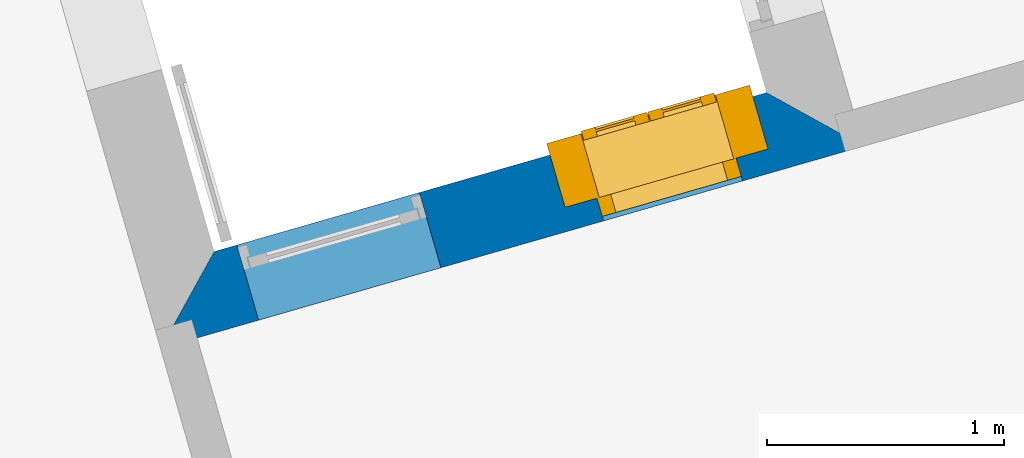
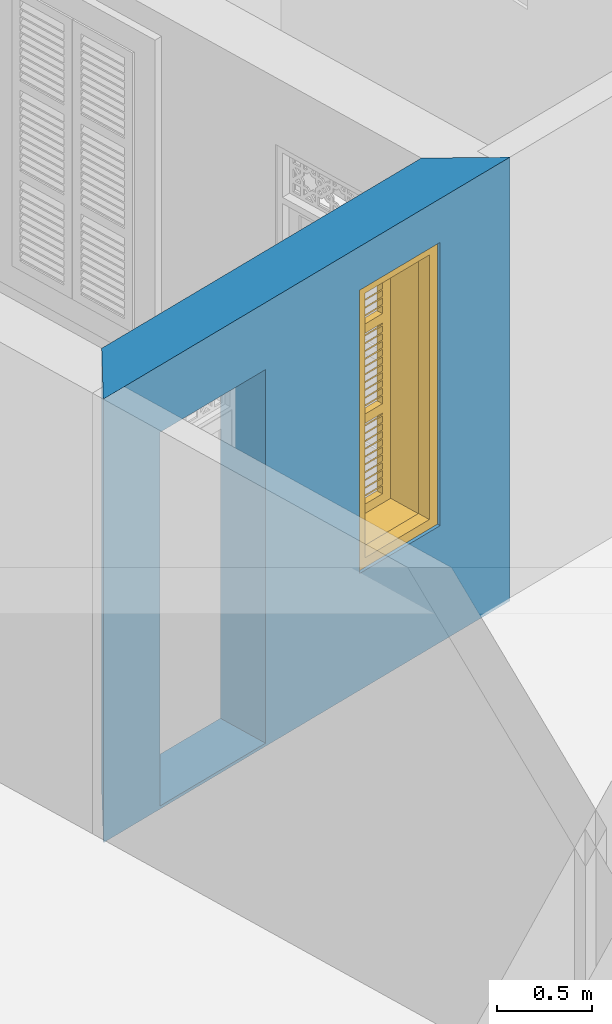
# One storey, part 4 of 16: 1 wall, 1 window, 2 openings.
"""IFC4 building model written with IfcOpenShell, lengths in metres."""

from ifc_helpers import new_model, si_unit, frame, origin, origin_with_axes, place, context, subcontext, project, spatial, polyline, outline, extrude, faceted_brep, source, transform, mapped, material, layer, layer_set, layer_usage, type_object, type_shapes, element, fill, save


model = new_model("IFC4")

# Units and contexts
model_context = context("Model", 3, world=origin_with_axes())
body_context = subcontext(model_context, "Body", "Model", "MODEL_VIEW")
ifc_project = project(units=[si_unit("PLANEANGLEUNIT", "RADIAN"), si_unit("MASSUNIT", "GRAM", prefix="KILO"), si_unit("FORCEUNIT", "NEWTON", prefix="KILO"), si_unit("LENGTHUNIT", "METRE"), si_unit("AREAUNIT", "SQUARE_METRE"), si_unit("VOLUMEUNIT", "CUBIC_METRE")], contexts=[model_context, model_context])

# Site, building, storey
site_placement = place(None, origin_with_axes())
site = spatial("IfcSite", under=ifc_project, at=site_placement, Name="Site plot-9", CompositionType="ELEMENT")
building_placement = place(None, origin_with_axes())
building = spatial("IfcBuilding", under=site, at=building_placement, Name="Building plot-9", CompositionType="ELEMENT")
storey_placement = place(None, origin_with_axes())
storey = spatial("IfcBuildingStorey", under=building, at=storey_placement, Name="plot-9 0", CompositionType="ELEMENT", Elevation=0.0)

# Wall, openings, window
ifc_material = material(Name="Masonry")
ifc_layer = layer(ifc_material, 0.33, ventilated=False)
ifc_layer_set = layer_set([ifc_layer], Name="exterior_0.08_0.25")
ifc_layer_usage = layer_usage(ifc_layer_set, "AXIS2", "POSITIVE", -0.25)
wall_type = type_object("IfcWallType", Name="exterior_0.08_0.25", PredefinedType="SOLIDWALL", material=ifc_layer_set)
wall_placement = place(storey_placement, frame((-14.2817740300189, -1.32481461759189, 0.0), z_axis=(0.0, 0.0, 1.0), x_axis=(-0.961007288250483, -0.276523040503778, 0.0)))
wall = element("IfcWall", 1, at=wall_placement, inside=storey, type_object=wall_type, material=ifc_layer_usage, Name="exterior", context=body_context, shape_type="SweptSolid", body=[
    extrude(outline(polyline([(-0.0800000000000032, 0.079999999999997), (0.250000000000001, -0.250000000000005), (2.67339041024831, -0.25), (3.00339041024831, 0.08), (-0.0800000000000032, 0.079999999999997)])), origin_with_axes(), (0.0, 0.0, 1.0), 2.85),
])
opening_1_placement = place(wall_placement, frame((0.450000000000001, 0.0, 0.75)))
opening_1 = element("IfcOpeningElement", 2, at=opening_1_placement, cuts=wall, Name="My Opening", ObjectType="Opening", context=body_context, shape_type="SweptSolid", body=[
    extrude(outline(polyline([(0.0, -0.27), (0.609999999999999, -0.27), (0.609999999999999, 1.1), (5.55111512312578e-16, 1.1), (0.0, -0.27)])), origin_with_axes(), (0.0, 0.0, 1.0), 1.82),
])
opening_2_placement = place(wall_placement, frame((1.77339041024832, 0.0, 0.02)))
element("IfcOpeningElement", 3, at=opening_2_placement, cuts=wall, Name="My Opening", ObjectType="Opening", context=body_context, shape_type="SweptSolid", body=[
    extrude(outline(polyline([(0.0, -0.27), (0.799999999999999, -0.27), (0.799999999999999, 1.1), (0.0, 1.1), (0.0, -0.27)])), origin_with_axes(), (0.0, 0.0, 1.0), 2.4),
])
window_type = type_object("IfcWindowType", Name="shuttered_big_narrow", PartitioningType="DOUBLE_PANEL_HORIZONTAL", PredefinedType="NOTDEFINED")
shared_shape = source(origin(), body_context, "Body", "Brep", [
    faceted_brep([(0.074, 0.0, 0.810667), (0.243, 0.0, 0.810667), (0.243, 0.0, 0.800667), (0.074, 0.0, 0.800667), (0.074, -0.04, 0.770667), (0.243, -0.04, 0.770667), (0.243, -0.04, 0.760667), (0.074, -0.04, 0.760667), (0.367, 0.0, 0.232), (0.536, 0.0, 0.232), (0.536, 0.0, 0.222), (0.367, 0.0, 0.222), (0.367, -0.04, 0.192), (0.536, -0.04, 0.192), (0.536, -0.04, 0.182), (0.367, -0.04, 0.182), (0.367, 0.0, 0.532), (0.536, 0.0, 0.532), (0.536, 0.0, 0.522), (0.367, 0.0, 0.522), (0.367, -0.04, 0.492), (0.536, -0.04, 0.492), (0.536, -0.04, 0.482), (0.367, -0.04, 0.482), (0.367, 0.0, 0.482), (0.536, 0.0, 0.482), (0.536, 0.0, 0.472), (0.367, 0.0, 0.472), (0.367, -0.04, 0.442), (0.536, -0.04, 0.442), (0.536, -0.04, 0.432), (0.367, -0.04, 0.432), (0.367, 0.0, 0.582), (0.536, 0.0, 0.582), (0.536, 0.0, 0.572), (0.367, 0.0, 0.572), (0.367, -0.04, 0.542), (0.536, -0.04, 0.542), (0.536, -0.04, 0.532), (0.367, -0.04, 0.532), (0.367, 0.0, 0.182), (0.536, 0.0, 0.182), (0.536, 0.0, 0.172), (0.367, 0.0, 0.172), (0.367, -0.04, 0.142), (0.536, -0.04, 0.142), (0.536, -0.04, 0.132), (0.367, -0.04, 0.132), (0.367, 0.0, 0.382), (0.536, 0.0, 0.382), (0.536, 0.0, 0.372), (0.367, 0.0, 0.372), (0.367, -0.04, 0.342), (0.536, -0.04, 0.342), (0.536, -0.04, 0.332), (0.367, -0.04, 0.332), (0.367, 0.0, 0.432), (0.536, 0.0, 0.432), (0.536, 0.0, 0.422), (0.367, 0.0, 0.422), (0.367, -0.04, 0.392), (0.536, -0.04, 0.392), (0.536, -0.04, 0.382), (0.367, -0.04, 0.382), (0.367, 0.0, 0.132), (0.536, 0.0, 0.132), (0.536, 0.0, 0.122), (0.367, 0.0, 0.122), (0.367, -0.04, 0.092), (0.536, -0.04, 0.092), (0.536, -0.04, 0.082), (0.367, -0.04, 0.082), (0.367, 0.0, 0.282), (0.536, 0.0, 0.282), (0.536, 0.0, 0.272), (0.367, 0.0, 0.272), (0.367, -0.04, 0.242), (0.536, -0.04, 0.242), (0.536, -0.04, 0.232), (0.367, -0.04, 0.232), (0.367, 0.0, 0.332), (0.536, 0.0, 0.332), (0.536, 0.0, 0.322), (0.367, 0.0, 0.322), (0.367, -0.04, 0.292), (0.536, -0.04, 0.292), (0.536, -0.04, 0.282), (0.367, -0.04, 0.282), (0.367, 0.0, 0.810667), (0.536, 0.0, 0.810667), (0.536, 0.0, 0.800667), (0.367, 0.0, 0.800667), (0.367, -0.04, 0.770667), (0.536, -0.04, 0.770667), (0.536, -0.04, 0.760667), (0.367, -0.04, 0.760667), (0.367, 0.0, 1.110667), (0.536, 0.0, 1.110667), (0.536, 0.0, 1.100667), (0.367, 0.0, 1.100667), (0.367, -0.04, 1.070667), (0.536, -0.04, 1.070667), (0.536, -0.04, 1.060667), (0.367, -0.04, 1.060667), (0.367, 0.0, 1.060667), (0.536, 0.0, 1.060667), (0.536, 0.0, 1.050667), (0.367, 0.0, 1.050667), (0.367, -0.04, 1.020667), (0.536, -0.04, 1.020667), (0.536, -0.04, 1.010667), (0.367, -0.04, 1.010667), (0.367, 0.0, 1.160667), (0.536, 0.0, 1.160667), (0.536, 0.0, 1.150667), (0.367, 0.0, 1.150667), (0.367, -0.04, 1.120667), (0.536, -0.04, 1.120667), (0.536, -0.04, 1.110667), (0.367, -0.04, 1.110667), (0.367, 0.0, 0.760667), (0.536, 0.0, 0.760667), (0.536, 0.0, 0.750667), (0.367, 0.0, 0.750667), (0.367, -0.04, 0.720667), (0.536, -0.04, 0.720667), (0.536, -0.04, 0.710667), (0.367, -0.04, 0.710667), (0.367, 0.0, 0.960667), (0.536, 0.0, 0.960667), (0.536, 0.0, 0.950667), (0.367, 0.0, 0.950667), (0.367, -0.04, 0.920667), (0.536, -0.04, 0.920667), (0.536, -0.04, 0.910667), (0.367, -0.04, 0.910667), (0.367, 0.0, 1.010667), (0.536, 0.0, 1.010667), (0.536, 0.0, 1.0), (0.367, 0.0, 1.0), (0.367, -0.04, 0.970667), (0.536, -0.04, 0.970667), (0.536, -0.04, 0.960667), (0.367, -0.04, 0.960667), (0.367, 0.0, 0.710667), (0.536, 0.0, 0.710667), (0.536, 0.0, 0.700667), (0.367, 0.0, 0.700667), (0.367, -0.04, 0.670667), (0.536, -0.04, 0.670667), (0.536, -0.04, 0.660667), (0.367, -0.04, 0.660667), (0.367, 0.0, 0.860667), (0.536, 0.0, 0.860667), (0.536, 0.0, 0.850667), (0.367, 0.0, 0.850667), (0.367, -0.04, 0.820667), (0.536, -0.04, 0.820667), (0.536, -0.04, 0.810667), (0.367, -0.04, 0.810667), (0.367, 0.0, 0.910667), (0.536, 0.0, 0.910667), (0.536, 0.0, 0.900667), (0.367, 0.0, 0.900667), (0.367, -0.04, 0.870667), (0.536, -0.04, 0.870667), (0.536, -0.04, 0.860667), (0.367, -0.04, 0.860667), (0.367, 0.0, 1.389333), (0.536, 0.0, 1.389333), (0.536, 0.0, 1.379333), (0.367, 0.0, 1.379333), (0.367, -0.04, 1.349333), (0.536, -0.04, 1.349333), (0.536, -0.04, 1.339333), (0.367, -0.04, 1.339333), (0.367, 0.0, 1.689333), (0.536, 0.0, 1.689333), (0.536, 0.0, 1.679333), (0.367, 0.0, 1.679333), (0.367, -0.04, 1.649333), (0.536, -0.04, 1.649333), (0.536, -0.04, 1.639333), (0.367, -0.04, 1.639333), (0.367, 0.0, 1.639333), (0.536, 0.0, 1.639333), (0.536, 0.0, 1.629333), (0.367, 0.0, 1.629333), (0.367, -0.04, 1.599333), (0.536, -0.04, 1.599333), (0.536, -0.04, 1.589333), (0.367, -0.04, 1.589333), (0.367, 0.0, 1.739333), (0.536, 0.0, 1.739333), (0.536, 0.0, 1.729333), (0.367, 0.0, 1.729333), (0.367, -0.04, 1.699333), (0.536, -0.04, 1.699333), (0.536, -0.04, 1.689333), (0.367, -0.04, 1.689333), (0.367, 0.0, 1.339333), (0.536, 0.0, 1.339333), (0.536, 0.0, 1.329333), (0.367, 0.0, 1.329333), (0.367, -0.04, 1.299333), (0.536, -0.04, 1.299333), (0.536, -0.04, 1.289333), (0.367, -0.04, 1.289333), (0.367, 0.0, 1.539333), (0.536, 0.0, 1.539333), (0.536, 0.0, 1.529333), (0.367, 0.0, 1.529333), (0.367, -0.04, 1.499333), (0.536, -0.04, 1.499333), (0.536, -0.04, 1.489333), (0.367, -0.04, 1.489333), (0.367, 0.0, 1.589333), (0.536, 0.0, 1.589333), (0.536, 0.0, 1.579333), (0.367, 0.0, 1.579333), (0.367, -0.04, 1.549333), (0.536, -0.04, 1.549333), (0.536, -0.04, 1.539333), (0.367, -0.04, 1.539333), (0.367, 0.0, 1.289333), (0.536, 0.0, 1.289333), (0.536, 0.0, 1.279333), (0.367, 0.0, 1.279333), (0.367, -0.04, 1.249333), (0.536, -0.04, 1.249333), (0.536, -0.04, 1.239333), (0.367, -0.04, 1.239333), (0.367, 0.0, 1.439333), (0.536, 0.0, 1.439333), (0.536, 0.0, 1.429333), (0.367, 0.0, 1.429333), (0.367, -0.04, 1.399333), (0.536, -0.04, 1.399333), (0.536, -0.04, 1.389333), (0.367, -0.04, 1.389333), (0.367, 0.0, 1.489333), (0.536, 0.0, 1.489333), (0.536, 0.0, 1.479333), (0.367, 0.0, 1.479333), (0.367, -0.04, 1.449333), (0.536, -0.04, 1.449333), (0.536, -0.04, 1.439333), (0.367, -0.04, 1.439333), (0.074, 0.0, 0.232), (0.243, 0.0, 0.232), (0.243, 0.0, 0.222), (0.074, 0.0, 0.222), (0.074, -0.04, 0.192), (0.243, -0.04, 0.192), (0.243, -0.04, 0.182), (0.074, -0.04, 0.182), (0.074, 0.0, 0.532), (0.243, 0.0, 0.532), (0.243, 0.0, 0.522), (0.074, 0.0, 0.522), (0.074, -0.04, 0.492), (0.243, -0.04, 0.492), (0.243, -0.04, 0.482), (0.074, -0.04, 0.482), (0.074, 0.0, 0.482), (0.243, 0.0, 0.482), (0.243, 0.0, 0.472), (0.074, 0.0, 0.472), (0.074, -0.04, 0.442), (0.243, -0.04, 0.442), (0.243, -0.04, 0.432), (0.074, -0.04, 0.432), (0.074, 0.0, 0.582), (0.243, 0.0, 0.582), (0.243, 0.0, 0.572), (0.074, 0.0, 0.572), (0.074, -0.04, 0.542), (0.243, -0.04, 0.542), (0.243, -0.04, 0.532), (0.074, -0.04, 0.532), (0.074, 0.0, 0.182), (0.243, 0.0, 0.182), (0.243, 0.0, 0.172), (0.074, 0.0, 0.172), (0.074, -0.04, 0.142), (0.243, -0.04, 0.142), (0.243, -0.04, 0.132), (0.074, -0.04, 0.132), (0.074, 0.0, 0.382), (0.243, 0.0, 0.382), (0.243, 0.0, 0.372), (0.074, 0.0, 0.372), (0.074, -0.04, 0.342), (0.243, -0.04, 0.342), (0.243, -0.04, 0.332), (0.074, -0.04, 0.332), (0.074, 0.0, 0.432), (0.243, 0.0, 0.432), (0.243, 0.0, 0.422), (0.074, 0.0, 0.422), (0.074, -0.04, 0.392), (0.243, -0.04, 0.392), (0.243, -0.04, 0.382), (0.074, -0.04, 0.382), (0.074, 0.0, 0.132), (0.243, 0.0, 0.132), (0.243, 0.0, 0.122), (0.074, 0.0, 0.122), (0.074, -0.04, 0.092), (0.243, -0.04, 0.092), (0.243, -0.04, 0.082), (0.074, -0.04, 0.082), (0.074, 0.0, 0.282), (0.243, 0.0, 0.282), (0.243, 0.0, 0.272), (0.074, 0.0, 0.272), (0.074, -0.04, 0.242), (0.243, -0.04, 0.242), (0.243, -0.04, 0.232), (0.074, -0.04, 0.232), (0.074, 0.0, 0.332), (0.243, 0.0, 0.332), (0.243, 0.0, 0.322), (0.074, 0.0, 0.322), (0.074, -0.04, 0.292), (0.243, -0.04, 0.292), (0.243, -0.04, 0.282), (0.074, -0.04, 0.282), (0.074, 0.0, 1.110667), (0.243, 0.0, 1.110667), (0.243, 0.0, 1.100667), (0.074, 0.0, 1.100667), (0.074, -0.04, 1.070667), (0.243, -0.04, 1.070667), (0.243, -0.04, 1.060667), (0.074, -0.04, 1.060667), (0.074, 0.0, 1.060667), (0.243, 0.0, 1.060667), (0.243, 0.0, 1.050667), (0.074, 0.0, 1.050667), (0.074, -0.04, 1.020667), (0.243, -0.04, 1.020667), (0.243, -0.04, 1.010667), (0.074, -0.04, 1.010667), (0.074, 0.0, 1.160667), (0.243, 0.0, 1.160667), (0.243, 0.0, 1.150667), (0.074, 0.0, 1.150667), (0.074, -0.04, 1.120667), (0.243, -0.04, 1.120667), (0.243, -0.04, 1.110667), (0.074, -0.04, 1.110667), (0.074, 0.0, 0.760667), (0.243, 0.0, 0.760667), (0.243, 0.0, 0.750667), (0.074, 0.0, 0.750667), (0.074, -0.04, 0.720667), (0.243, -0.04, 0.720667), (0.243, -0.04, 0.710667), (0.074, -0.04, 0.710667), (0.074, 0.0, 0.960667), (0.243, 0.0, 0.960667), (0.243, 0.0, 0.950667), (0.074, 0.0, 0.950667), (0.074, -0.04, 0.920667), (0.243, -0.04, 0.920667), (0.243, -0.04, 0.910667), (0.074, -0.04, 0.910667), (0.074, 0.0, 1.010667), (0.243, 0.0, 1.010667), (0.243, 0.0, 1.0), (0.074, 0.0, 1.0), (0.074, -0.04, 0.970667), (0.243, -0.04, 0.970667), (0.243, -0.04, 0.960667), (0.074, -0.04, 0.960667), (0.074, 0.0, 0.710667), (0.243, 0.0, 0.710667), (0.243, 0.0, 0.700667), (0.074, 0.0, 0.700667), (0.074, -0.04, 0.670667), (0.243, -0.04, 0.670667), (0.243, -0.04, 0.660667), (0.074, -0.04, 0.660667), (0.074, 0.0, 0.860667), (0.243, 0.0, 0.860667), (0.243, 0.0, 0.850667), (0.074, 0.0, 0.850667), (0.074, -0.04, 0.820667), (0.243, -0.04, 0.820667), (0.243, -0.04, 0.810667), (0.074, -0.04, 0.810667), (0.074, 0.0, 0.910667), (0.243, 0.0, 0.910667), (0.243, 0.0, 0.900667), (0.074, 0.0, 0.900667), (0.074, -0.04, 0.870667), (0.243, -0.04, 0.870667), (0.243, -0.04, 0.860667), (0.074, -0.04, 0.860667), (0.074, 0.0, 1.389333), (0.243, 0.0, 1.389333), (0.243, 0.0, 1.379333), (0.074, 0.0, 1.379333), (0.074, -0.04, 1.349333), (0.243, -0.04, 1.349333), (0.243, -0.04, 1.339333), (0.074, -0.04, 1.339333), (0.074, 0.0, 1.689333), (0.243, 0.0, 1.689333), (0.243, 0.0, 1.679333), (0.074, 0.0, 1.679333), (0.074, -0.04, 1.649333), (0.243, -0.04, 1.649333), (0.243, -0.04, 1.639333), (0.074, -0.04, 1.639333), (0.074, 0.0, 1.639333), (0.243, 0.0, 1.639333), (0.243, 0.0, 1.629333), (0.074, 0.0, 1.629333), (0.074, -0.04, 1.599333), (0.243, -0.04, 1.599333), (0.243, -0.04, 1.589333), (0.074, -0.04, 1.589333), (0.074, 0.0, 1.739333), (0.243, 0.0, 1.739333), (0.243, 0.0, 1.729333), (0.074, 0.0, 1.729333), (0.074, -0.04, 1.699333), (0.243, -0.04, 1.699333), (0.243, -0.04, 1.689333), (0.074, -0.04, 1.689333), (0.074, 0.0, 1.339333), (0.243, 0.0, 1.339333), (0.243, 0.0, 1.329333), (0.074, 0.0, 1.329333), (0.074, -0.04, 1.299333), (0.243, -0.04, 1.299333), (0.243, -0.04, 1.289333), (0.074, -0.04, 1.289333), (0.074, 0.0, 1.539333), (0.243, 0.0, 1.539333), (0.243, 0.0, 1.529333), (0.074, 0.0, 1.529333), (0.074, -0.04, 1.499333), (0.243, -0.04, 1.499333), (0.243, -0.04, 1.489333), (0.074, -0.04, 1.489333), (0.074, 0.0, 1.589333), (0.243, 0.0, 1.589333), (0.243, 0.0, 1.579333), (0.074, 0.0, 1.579333), (0.074, -0.04, 1.549333), (0.243, -0.04, 1.549333), (0.243, -0.04, 1.539333), (0.074, -0.04, 1.539333), (0.074, 0.0, 1.289333), (0.243, 0.0, 1.289333), (0.243, 0.0, 1.279333), (0.074, 0.0, 1.279333), (0.074, -0.04, 1.249333), (0.243, -0.04, 1.249333), (0.243, -0.04, 1.239333), (0.074, -0.04, 1.239333), (0.074, 0.0, 1.439333), (0.243, 0.0, 1.439333), (0.243, 0.0, 1.429333), (0.074, 0.0, 1.429333), (0.074, -0.04, 1.399333), (0.243, -0.04, 1.399333), (0.243, -0.04, 1.389333), (0.074, -0.04, 1.389333), (0.074, 0.0, 1.489333), (0.243, 0.0, 1.489333), (0.243, 0.0, 1.479333), (0.074, 0.0, 1.479333), (0.074, -0.04, 1.449333), (0.243, -0.04, 1.449333), (0.243, -0.04, 1.439333), (0.074, -0.04, 1.439333), (0.367, -0.04, 0.072), (0.307, -0.04, 0.012), (0.596, -0.04, 0.012), (0.536, -0.04, 0.072), (0.307, -0.04, 0.590667), (0.367, -0.04, 0.590667), (0.307, 0.0, 0.012), (0.596, 0.0, 0.012), (0.536, -0.04, 0.590667), (0.596, -0.04, 0.590667), (0.536, 0.0, 0.072), (0.367, 0.0, 0.072), (0.307, 0.0, 0.590667), (0.367, 0.0, 0.590667), (0.367, -0.04, 0.650667), (0.307, -0.04, 0.650667), (0.596, 0.0, 0.590667), (0.536, 0.0, 0.590667), (0.536, -0.04, 0.650667), (0.596, -0.04, 0.650667), (0.307, 0.0, 0.650667), (0.307, -0.04, 1.169333), (0.367, -0.04, 1.169333), (0.596, 0.0, 0.650667), (0.536, -0.04, 1.169333), (0.596, -0.04, 1.169333), (0.307, 0.0, 1.169333), (0.367, 0.0, 0.650667), (0.536, 0.0, 0.650667), (0.367, 0.0, 1.169333), (0.367, -0.04, 1.229333), (0.307, -0.04, 1.229333), (0.596, 0.0, 1.169333), (0.536, 0.0, 1.169333), (0.536, -0.04, 1.229333), (0.596, -0.04, 1.229333), (0.307, 0.0, 1.229333), (0.367, -0.04, 1.748), (0.307, -0.04, 1.808), (0.596, 0.0, 1.229333), (0.596, -0.04, 1.808), (0.536, -0.04, 1.748), (0.307, 0.0, 1.808), (0.367, 0.0, 1.229333), (0.536, 0.0, 1.229333), (0.367, 0.0, 1.748), (0.596, 0.0, 1.808), (0.536, 0.0, 1.748), (0.074, -0.04, 0.072), (0.014, -0.04, 0.012), (0.303, -0.04, 0.012), (0.243, -0.04, 0.072), (0.014, -0.04, 0.590667), (0.074, -0.04, 0.590667), (0.014, 0.0, 0.012), (0.303, 0.0, 0.012), (0.243, -0.04, 0.590667), (0.303, -0.04, 0.590667), (0.243, 0.0, 0.072), (0.074, 0.0, 0.072), (0.014, 0.0, 0.590667), (0.074, 0.0, 0.590667), (0.074, -0.04, 0.650667), (0.014, -0.04, 0.650667), (0.303, 0.0, 0.590667), (0.243, 0.0, 0.590667), (0.243, -0.04, 0.650667), (0.303, -0.04, 0.650667), (0.014, 0.0, 0.650667), (0.014, -0.04, 1.169333), (0.074, -0.04, 1.169333), (0.303, 0.0, 0.650667), (0.243, -0.04, 1.169333), (0.303, -0.04, 1.169333), (0.014, 0.0, 1.169333), (0.074, 0.0, 0.650667), (0.243, 0.0, 0.650667), (0.074, 0.0, 1.169333), (0.074, -0.04, 1.229333), (0.014, -0.04, 1.229333), (0.303, 0.0, 1.169333), (0.243, 0.0, 1.169333), (0.243, -0.04, 1.229333), (0.303, -0.04, 1.229333), (0.014, 0.0, 1.229333), (0.074, -0.04, 1.748), (0.014, -0.04, 1.808), (0.303, 0.0, 1.229333), (0.303, -0.04, 1.808), (0.243, -0.04, 1.748), (0.014, 0.0, 1.808), (0.074, 0.0, 1.229333), (0.243, 0.0, 1.229333), (0.074, 0.0, 1.748), (0.303, 0.0, 1.808), (0.243, 0.0, 1.748), (0.0, 0.33, 1.82), (0.61, 0.33, 1.82), (0.55, 0.33, 1.76), (0.06, 0.33, 1.76), (0.75, -0.03, 1.96), (0.75, 0.25, 1.96), (-0.14, 0.25, 1.96), (-0.14, -0.03, 1.96), (0.0, 0.25, 1.82), (0.61, 0.25, 1.82), (0.6, 0.25, 1.81), (0.01, 0.25, 1.81), (0.55, 0.33, 0.06), (0.61, 0.33, 0.0), (0.55, 0.25, 1.76), (0.06, 0.25, 1.76), (0.0, 0.33, 0.0), (0.06, 0.33, 0.06), (0.0, 0.25, 0.0), (0.610046, 0.25, 1.82), (0.61, 0.25, 0.0), (0.55, 0.25, 0.06), (0.06, 0.25, 0.06), (0.6, 0.25, 0.01), (0.6, -0.03, 0.01), (0.6, -0.03, 1.81), (0.01, -0.03, 0.01), (-0.14, -0.03, -0.14), (0.75, -0.03, -0.14), (0.01, -0.03, 1.81), (0.01, 0.25, 0.01), (0.75, 0.25, -0.14), (-0.14, 0.25, -0.14)], [[[0, 1, 2, 3]], [[1, 0, 4, 5]], [[2, 1, 5, 6]], [[6, 7, 3, 2]], [[7, 4, 0, 3]], [[5, 4, 7, 6]], [[8, 9, 10, 11]], [[12, 13, 9, 8]], [[13, 14, 10, 9]], [[14, 15, 11, 10]], [[15, 12, 8, 11]], [[13, 12, 15, 14]], [[16, 17, 18, 19]], [[20, 21, 17, 16]], [[21, 22, 18, 17]], [[22, 23, 19, 18]], [[23, 20, 16, 19]], [[21, 20, 23, 22]], [[24, 25, 26, 27]], [[28, 29, 25, 24]], [[29, 30, 26, 25]], [[30, 31, 27, 26]], [[31, 28, 24, 27]], [[29, 28, 31, 30]], [[32, 33, 34, 35]], [[36, 37, 33, 32]], [[37, 38, 34, 33]], [[38, 39, 35, 34]], [[39, 36, 32, 35]], [[37, 36, 39, 38]], [[40, 41, 42, 43]], [[44, 45, 41, 40]], [[45, 46, 42, 41]], [[46, 47, 43, 42]], [[47, 44, 40, 43]], [[45, 44, 47, 46]], [[48, 49, 50, 51]], [[52, 53, 49, 48]], [[53, 54, 50, 49]], [[54, 55, 51, 50]], [[55, 52, 48, 51]], [[53, 52, 55, 54]], [[56, 57, 58, 59]], [[60, 61, 57, 56]], [[61, 62, 58, 57]], [[62, 63, 59, 58]], [[63, 60, 56, 59]], [[61, 60, 63, 62]], [[64, 65, 66, 67]], [[68, 69, 65, 64]], [[69, 70, 66, 65]], [[70, 71, 67, 66]], [[71, 68, 64, 67]], [[69, 68, 71, 70]], [[72, 73, 74, 75]], [[76, 77, 73, 72]], [[77, 78, 74, 73]], [[78, 79, 75, 74]], [[79, 76, 72, 75]], [[77, 76, 79, 78]], [[80, 81, 82, 83]], [[84, 85, 81, 80]], [[85, 86, 82, 81]], [[86, 87, 83, 82]], [[87, 84, 80, 83]], [[85, 84, 87, 86]], [[88, 89, 90, 91]], [[92, 93, 89, 88]], [[93, 94, 90, 89]], [[94, 95, 91, 90]], [[95, 92, 88, 91]], [[93, 92, 95, 94]], [[96, 97, 98, 99]], [[100, 101, 97, 96]], [[101, 102, 98, 97]], [[102, 103, 99, 98]], [[103, 100, 96, 99]], [[101, 100, 103, 102]], [[104, 105, 106, 107]], [[108, 109, 105, 104]], [[109, 110, 106, 105]], [[110, 111, 107, 106]], [[111, 108, 104, 107]], [[109, 108, 111, 110]], [[112, 113, 114, 115]], [[116, 117, 113, 112]], [[117, 118, 114, 113]], [[118, 119, 115, 114]], [[119, 116, 112, 115]], [[117, 116, 119, 118]], [[120, 121, 122, 123]], [[124, 125, 121, 120]], [[125, 126, 122, 121]], [[126, 127, 123, 122]], [[127, 124, 120, 123]], [[125, 124, 127, 126]], [[128, 129, 130, 131]], [[132, 133, 129, 128]], [[133, 134, 130, 129]], [[134, 135, 131, 130]], [[135, 132, 128, 131]], [[133, 132, 135, 134]], [[136, 137, 138, 139]], [[140, 141, 137, 136]], [[141, 142, 138, 137]], [[142, 143, 139, 138]], [[143, 140, 136, 139]], [[141, 140, 143, 142]], [[144, 145, 146, 147]], [[148, 149, 145, 144]], [[149, 150, 146, 145]], [[150, 151, 147, 146]], [[151, 148, 144, 147]], [[149, 148, 151, 150]], [[152, 153, 154, 155]], [[156, 157, 153, 152]], [[157, 158, 154, 153]], [[158, 159, 155, 154]], [[159, 156, 152, 155]], [[157, 156, 159, 158]], [[160, 161, 162, 163]], [[164, 165, 161, 160]], [[165, 166, 162, 161]], [[166, 167, 163, 162]], [[167, 164, 160, 163]], [[165, 164, 167, 166]], [[168, 169, 170, 171]], [[172, 173, 169, 168]], [[173, 174, 170, 169]], [[174, 175, 171, 170]], [[175, 172, 168, 171]], [[173, 172, 175, 174]], [[176, 177, 178, 179]], [[180, 181, 177, 176]], [[181, 182, 178, 177]], [[182, 183, 179, 178]], [[183, 180, 176, 179]], [[181, 180, 183, 182]], [[184, 185, 186, 187]], [[188, 189, 185, 184]], [[189, 190, 186, 185]], [[190, 191, 187, 186]], [[191, 188, 184, 187]], [[189, 188, 191, 190]], [[192, 193, 194, 195]], [[196, 197, 193, 192]], [[197, 198, 194, 193]], [[198, 199, 195, 194]], [[199, 196, 192, 195]], [[197, 196, 199, 198]], [[200, 201, 202, 203]], [[204, 205, 201, 200]], [[205, 206, 202, 201]], [[206, 207, 203, 202]], [[207, 204, 200, 203]], [[205, 204, 207, 206]], [[208, 209, 210, 211]], [[212, 213, 209, 208]], [[213, 214, 210, 209]], [[214, 215, 211, 210]], [[215, 212, 208, 211]], [[213, 212, 215, 214]], [[216, 217, 218, 219]], [[220, 221, 217, 216]], [[221, 222, 218, 217]], [[222, 223, 219, 218]], [[223, 220, 216, 219]], [[221, 220, 223, 222]], [[224, 225, 226, 227]], [[228, 229, 225, 224]], [[229, 230, 226, 225]], [[230, 231, 227, 226]], [[231, 228, 224, 227]], [[229, 228, 231, 230]], [[232, 233, 234, 235]], [[236, 237, 233, 232]], [[237, 238, 234, 233]], [[238, 239, 235, 234]], [[239, 236, 232, 235]], [[237, 236, 239, 238]], [[240, 241, 242, 243]], [[244, 245, 241, 240]], [[245, 246, 242, 241]], [[246, 247, 243, 242]], [[247, 244, 240, 243]], [[245, 244, 247, 246]], [[248, 249, 250, 251]], [[252, 253, 249, 248]], [[253, 254, 250, 249]], [[254, 255, 251, 250]], [[255, 252, 248, 251]], [[253, 252, 255, 254]], [[256, 257, 258, 259]], [[260, 261, 257, 256]], [[261, 262, 258, 257]], [[262, 263, 259, 258]], [[263, 260, 256, 259]], [[261, 260, 263, 262]], [[264, 265, 266, 267]], [[268, 269, 265, 264]], [[269, 270, 266, 265]], [[270, 271, 267, 266]], [[271, 268, 264, 267]], [[269, 268, 271, 270]], [[272, 273, 274, 275]], [[276, 277, 273, 272]], [[277, 278, 274, 273]], [[278, 279, 275, 274]], [[279, 276, 272, 275]], [[277, 276, 279, 278]], [[280, 281, 282, 283]], [[284, 285, 281, 280]], [[285, 286, 282, 281]], [[286, 287, 283, 282]], [[287, 284, 280, 283]], [[285, 284, 287, 286]], [[288, 289, 290, 291]], [[292, 293, 289, 288]], [[293, 294, 290, 289]], [[294, 295, 291, 290]], [[295, 292, 288, 291]], [[293, 292, 295, 294]], [[296, 297, 298, 299]], [[300, 301, 297, 296]], [[301, 302, 298, 297]], [[302, 303, 299, 298]], [[303, 300, 296, 299]], [[301, 300, 303, 302]], [[304, 305, 306, 307]], [[308, 309, 305, 304]], [[309, 310, 306, 305]], [[310, 311, 307, 306]], [[311, 308, 304, 307]], [[309, 308, 311, 310]], [[312, 313, 314, 315]], [[316, 317, 313, 312]], [[317, 318, 314, 313]], [[318, 319, 315, 314]], [[319, 316, 312, 315]], [[317, 316, 319, 318]], [[320, 321, 322, 323]], [[324, 325, 321, 320]], [[325, 326, 322, 321]], [[326, 327, 323, 322]], [[327, 324, 320, 323]], [[325, 324, 327, 326]], [[328, 329, 330, 331]], [[332, 333, 329, 328]], [[333, 334, 330, 329]], [[334, 335, 331, 330]], [[335, 332, 328, 331]], [[333, 332, 335, 334]], [[336, 337, 338, 339]], [[340, 341, 337, 336]], [[341, 342, 338, 337]], [[342, 343, 339, 338]], [[343, 340, 336, 339]], [[341, 340, 343, 342]], [[344, 345, 346, 347]], [[348, 349, 345, 344]], [[349, 350, 346, 345]], [[350, 351, 347, 346]], [[351, 348, 344, 347]], [[349, 348, 351, 350]], [[352, 353, 354, 355]], [[356, 357, 353, 352]], [[357, 358, 354, 353]], [[358, 359, 355, 354]], [[359, 356, 352, 355]], [[357, 356, 359, 358]], [[360, 361, 362, 363]], [[364, 365, 361, 360]], [[365, 366, 362, 361]], [[366, 367, 363, 362]], [[367, 364, 360, 363]], [[366, 365, 364, 367]], [[368, 369, 370, 371]], [[372, 373, 369, 368]], [[373, 374, 370, 369]], [[374, 375, 371, 370]], [[375, 372, 368, 371]], [[373, 372, 375, 374]], [[376, 377, 378, 379]], [[380, 381, 377, 376]], [[381, 382, 378, 377]], [[382, 383, 379, 378]], [[383, 380, 376, 379]], [[381, 380, 383, 382]], [[384, 385, 386, 387]], [[388, 389, 385, 384]], [[389, 390, 386, 385]], [[390, 391, 387, 386]], [[391, 388, 384, 387]], [[389, 388, 391, 390]], [[392, 393, 394, 395]], [[396, 397, 393, 392]], [[397, 398, 394, 393]], [[398, 399, 395, 394]], [[399, 396, 392, 395]], [[397, 396, 399, 398]], [[400, 401, 402, 403]], [[404, 405, 401, 400]], [[405, 406, 402, 401]], [[406, 407, 403, 402]], [[407, 404, 400, 403]], [[405, 404, 407, 406]], [[408, 409, 410, 411]], [[412, 413, 409, 408]], [[413, 414, 410, 409]], [[414, 415, 411, 410]], [[415, 412, 408, 411]], [[414, 413, 412, 415]], [[416, 417, 418, 419]], [[420, 421, 417, 416]], [[421, 422, 418, 417]], [[422, 423, 419, 418]], [[423, 420, 416, 419]], [[421, 420, 423, 422]], [[424, 425, 426, 427]], [[428, 429, 425, 424]], [[429, 430, 426, 425]], [[430, 431, 427, 426]], [[431, 428, 424, 427]], [[429, 428, 431, 430]], [[432, 433, 434, 435]], [[436, 437, 433, 432]], [[437, 438, 434, 433]], [[438, 439, 435, 434]], [[439, 436, 432, 435]], [[437, 436, 439, 438]], [[440, 441, 442, 443]], [[444, 445, 441, 440]], [[445, 446, 442, 441]], [[446, 447, 443, 442]], [[447, 444, 440, 443]], [[445, 444, 447, 446]], [[448, 449, 450, 451]], [[452, 453, 449, 448]], [[453, 454, 450, 449]], [[454, 455, 451, 450]], [[455, 452, 448, 451]], [[453, 452, 455, 454]], [[456, 457, 458, 459]], [[460, 461, 457, 456]], [[461, 462, 458, 457]], [[462, 463, 459, 458]], [[463, 460, 456, 459]], [[461, 460, 463, 462]], [[464, 465, 466, 467]], [[468, 469, 465, 464]], [[469, 470, 466, 465]], [[470, 471, 467, 466]], [[471, 468, 464, 467]], [[469, 468, 471, 470]], [[472, 473, 474, 475]], [[476, 477, 473, 472]], [[477, 478, 474, 473]], [[478, 479, 475, 474]], [[479, 476, 472, 475]], [[477, 476, 479, 478]], [[480, 481, 482, 483]], [[484, 481, 480, 485]], [[486, 487, 482, 481]], [[488, 483, 482, 489]], [[480, 483, 490, 491]], [[486, 481, 484, 492]], [[485, 480, 491, 493]], [[485, 494, 495, 484]], [[486, 491, 490, 487]], [[496, 489, 482, 487]], [[483, 488, 497, 490]], [[498, 488, 489, 499]], [[492, 484, 495, 500]], [[486, 492, 493, 491]], [[488, 485, 493, 497]], [[494, 485, 488, 498]], [[501, 495, 494, 502]], [[490, 497, 496, 487]], [[503, 499, 489, 496]], [[504, 498, 499, 505]], [[500, 495, 501, 506]], [[507, 493, 492, 500]], [[493, 507, 508, 497]], [[494, 498, 508, 507]], [[502, 494, 507, 509]], [[502, 510, 511, 501]], [[497, 508, 503, 496]], [[512, 505, 499, 503]], [[498, 504, 513, 508]], [[514, 504, 505, 515]], [[506, 501, 511, 516]], [[500, 506, 509, 507]], [[504, 502, 509, 513]], [[510, 502, 504, 514]], [[510, 517, 518, 511]], [[508, 513, 512, 503]], [[519, 515, 505, 512]], [[515, 520, 521, 514]], [[516, 511, 518, 522]], [[523, 509, 506, 516]], [[509, 523, 524, 513]], [[510, 514, 524, 523]], [[517, 510, 523, 525]], [[518, 517, 521, 520]], [[513, 524, 519, 512]], [[526, 520, 515, 519]], [[514, 521, 527, 524]], [[522, 518, 520, 526]], [[525, 523, 516, 522]], [[521, 517, 525, 527]], [[526, 519, 524, 527]], [[525, 522, 526, 527]], [[528, 529, 530, 531]], [[532, 529, 528, 533]], [[534, 535, 530, 529]], [[536, 531, 530, 537]], [[528, 531, 538, 539]], [[534, 529, 532, 540]], [[533, 528, 539, 541]], [[533, 542, 543, 532]], [[534, 539, 538, 535]], [[544, 537, 530, 535]], [[531, 536, 545, 538]], [[546, 536, 537, 547]], [[540, 532, 543, 548]], [[534, 540, 541, 539]], [[536, 533, 541, 545]], [[542, 533, 536, 546]], [[549, 543, 542, 550]], [[538, 545, 544, 535]], [[551, 547, 537, 544]], [[552, 546, 547, 553]], [[548, 543, 549, 554]], [[555, 541, 540, 548]], [[541, 555, 556, 545]], [[542, 546, 556, 555]], [[550, 542, 555, 557]], [[550, 558, 559, 549]], [[545, 556, 551, 544]], [[560, 553, 547, 551]], [[546, 552, 561, 556]], [[562, 552, 553, 563]], [[554, 549, 559, 564]], [[548, 554, 557, 555]], [[552, 550, 557, 561]], [[558, 550, 552, 562]], [[558, 565, 566, 559]], [[556, 561, 560, 551]], [[567, 563, 553, 560]], [[563, 568, 569, 562]], [[564, 559, 566, 570]], [[571, 557, 554, 564]], [[557, 571, 572, 561]], [[558, 562, 572, 571]], [[565, 558, 571, 573]], [[566, 565, 569, 568]], [[561, 572, 567, 560]], [[574, 568, 563, 567]], [[562, 569, 575, 572]], [[570, 566, 568, 574]], [[573, 571, 564, 570]], [[569, 565, 573, 575]], [[574, 567, 572, 575]], [[573, 570, 574, 575]], [[576, 577, 578, 579]], [[580, 581, 582, 583]], [[576, 584, 585, 577]], [[582, 581, 586, 587]], [[588, 578, 577, 589]], [[579, 578, 590, 591]], [[592, 576, 579, 593]], [[576, 592, 594, 584]], [[595, 584, 591, 590]], [[596, 585, 595]], [[595, 590, 597]], [[595, 597, 596]], [[589, 577, 585, 596]], [[578, 588, 597, 590]], [[589, 592, 593, 588]], [[593, 579, 591, 598]], [[592, 589, 596, 594]], [[598, 591, 584, 594]], [[594, 596, 597, 598]], [[588, 593, 598, 597]], [[599, 600, 601, 586]], [[602, 603, 604, 600]], [[601, 605, 587, 586]], [[600, 599, 606, 602]], [[607, 604, 603, 608]], [[599, 607, 608, 606]], [[605, 602, 606, 587]], [[602, 605, 583, 603]], [[600, 604, 580, 601]], [[580, 583, 605, 601]], [[606, 608, 582, 587]], [[599, 586, 581, 607]], [[582, 608, 603, 583]], [[580, 604, 607, 581]]]),
])
type_shapes(window_type, [shared_shape])
window_placement = place(storey_placement, frame((-14.7888885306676, -1.18977801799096, 0.75), z_axis=(0.0, 0.0, 1.0), x_axis=(-0.586214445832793, -0.168679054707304, 0.0)))
window = element("IfcWindow", 4, at=window_placement, inside=storey, type_object=window_type, Name="bedroom sahn window", OverallHeight=1.82, OverallWidth=0.61, context=body_context, shape_type="MappedRepresentation", body=[
    mapped(shared_shape, transform((0.0, 0.0, 0.0), scale=1.0)),
])
fill(opening_1, window)

save(model, "model.ifc")
